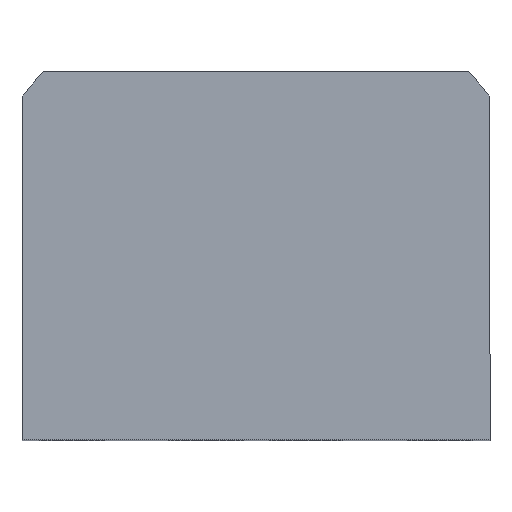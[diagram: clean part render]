
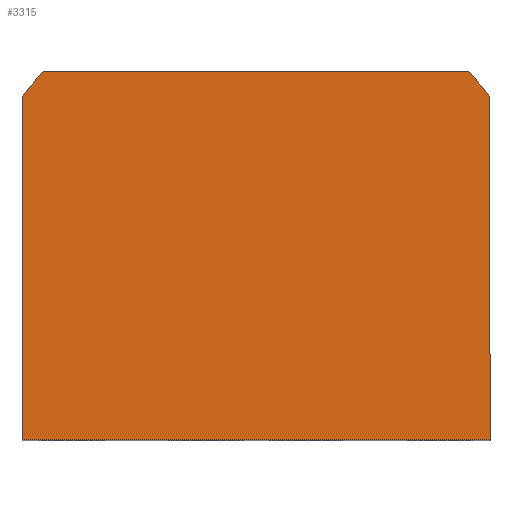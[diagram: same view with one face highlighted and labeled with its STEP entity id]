
A CAD part, top view. The second image highlights one B-rep face of the part: STEP entity #3315.
In plain terms, the highlighted planar face has unit normal (0, 0, 1).
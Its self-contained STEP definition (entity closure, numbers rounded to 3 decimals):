
#41 = VECTOR ( 'NONE', #9391, 1000. ) ;
#50 = CARTESIAN_POINT ( 'NONE',  ( 47., 34.832, 37.5 ) ) ;
#233 = AXIS2_PLACEMENT_3D ( 'NONE', #4437, #9310, #10102 ) ;
#341 = ORIENTED_EDGE ( 'NONE', *, *, #1481, .T. ) ;
#414 = CARTESIAN_POINT ( 'NONE',  ( 47., -34., 37.5 ) ) ;
#696 = LINE ( 'NONE', #3820, #9459 ) ;
#1481 = EDGE_CURVE ( 'NONE', #5358, #3852, #7029, .T. ) ;
#1681 = VERTEX_POINT ( 'NONE', #10483 ) ;
#2001 = LINE ( 'NONE', #9683, #2659 ) ;
#2174 = DIRECTION ( 'NONE',  ( 1., 0., 0. ) ) ;
#2282 = AXIS2_PLACEMENT_3D ( 'NONE', #5080, #8494, #2621 ) ;
#2302 = EDGE_CURVE ( 'NONE', #3852, #1681, #696, .T. ) ;
#2621 = DIRECTION ( 'NONE',  ( 1., 0., 0. ) ) ;
#2659 = VECTOR ( 'NONE', #2972, 1000. ) ;
#2972 = DIRECTION ( 'NONE',  ( 0., -1., 0. ) ) ;
#3264 = EDGE_CURVE ( 'NONE', #5180, #5358, #5194, .T. ) ;
#3315 = ADVANCED_FACE ( 'NONE', ( #6606 ), #7577, .T. ) ;
#3820 = CARTESIAN_POINT ( 'NONE',  ( -42.688, 40., 37.5 ) ) ;
#3852 = VERTEX_POINT ( 'NONE', #10289 ) ;
#3946 = EDGE_LOOP ( 'NONE', ( #10425, #4914, #341, #6043, #7284, #10010 ) ) ;
#4437 = CARTESIAN_POINT ( 'NONE',  ( 0., 0., 37.5 ) ) ;
#4472 = LINE ( 'NONE', #414, #10528 ) ;
#4553 = CARTESIAN_POINT ( 'NONE',  ( -47., -34., 37.5 ) ) ;
#4610 = AXIS2_PLACEMENT_3D ( 'NONE', #9279, #5102, #6677 ) ;
#4914 = ORIENTED_EDGE ( 'NONE', *, *, #3264, .T. ) ;
#5080 = CARTESIAN_POINT ( 'NONE',  ( 0., 0., 37.5 ) ) ;
#5102 = DIRECTION ( 'NONE',  ( 0., 0., 1. ) ) ;
#5180 = VERTEX_POINT ( 'NONE', #10493 ) ;
#5194 = LINE ( 'NONE', #5246, #41 ) ;
#5246 = CARTESIAN_POINT ( 'NONE',  ( 47., 34.832, 37.5 ) ) ;
#5358 = VERTEX_POINT ( 'NONE', #50 ) ;
#6043 = ORIENTED_EDGE ( 'NONE', *, *, #2302, .T. ) ;
#6155 = EDGE_CURVE ( 'NONE', #10179, #5180, #4472, .T. ) ;
#6606 = FACE_OUTER_BOUND ( 'NONE', #3946, .T. ) ;
#6677 = DIRECTION ( 'NONE',  ( 1., 0., 0. ) ) ;
#7026 = VERTEX_POINT ( 'NONE', #9115 ) ;
#7029 = CIRCLE ( 'NONE', #233, 58.5 ) ;
#7284 = ORIENTED_EDGE ( 'NONE', *, *, #9054, .T. ) ;
#7577 = PLANE ( 'NONE',  #4610 ) ;
#7759 = EDGE_CURVE ( 'NONE', #7026, #10179, #2001, .T. ) ;
#8494 = DIRECTION ( 'NONE',  ( 0., 0., 1. ) ) ;
#9054 = EDGE_CURVE ( 'NONE', #1681, #7026, #10494, .T. ) ;
#9115 = CARTESIAN_POINT ( 'NONE',  ( -47., 34.832, 37.5 ) ) ;
#9279 = CARTESIAN_POINT ( 'NONE',  ( 0., 0., 37.5 ) ) ;
#9310 = DIRECTION ( 'NONE',  ( 0., 0., 1. ) ) ;
#9391 = DIRECTION ( 'NONE',  ( 0., 1., 0. ) ) ;
#9459 = VECTOR ( 'NONE', #10407, 1000. ) ;
#9683 = CARTESIAN_POINT ( 'NONE',  ( -47., -34., 37.5 ) ) ;
#10010 = ORIENTED_EDGE ( 'NONE', *, *, #7759, .T. ) ;
#10102 = DIRECTION ( 'NONE',  ( 1., 0., 0. ) ) ;
#10179 = VERTEX_POINT ( 'NONE', #4553 ) ;
#10289 = CARTESIAN_POINT ( 'NONE',  ( 42.688, 40., 37.5 ) ) ;
#10407 = DIRECTION ( 'NONE',  ( -1., 0., 0. ) ) ;
#10425 = ORIENTED_EDGE ( 'NONE', *, *, #6155, .T. ) ;
#10483 = CARTESIAN_POINT ( 'NONE',  ( -42.688, 40., 37.5 ) ) ;
#10493 = CARTESIAN_POINT ( 'NONE',  ( 47., -34., 37.5 ) ) ;
#10494 = CIRCLE ( 'NONE', #2282, 58.5 ) ;
#10528 = VECTOR ( 'NONE', #2174, 1000. ) ;
